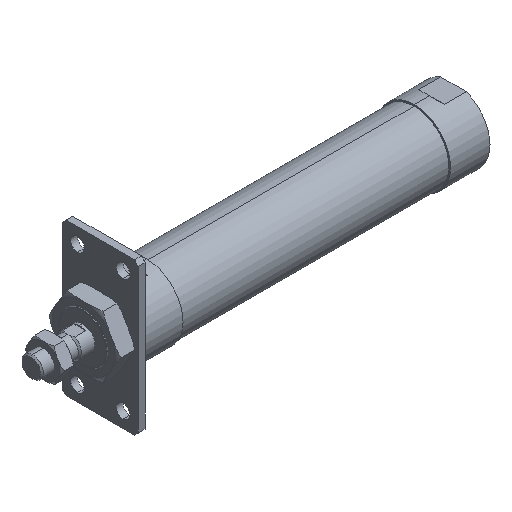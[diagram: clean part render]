
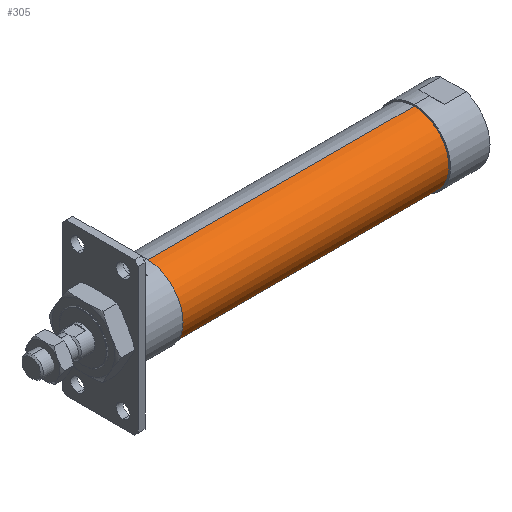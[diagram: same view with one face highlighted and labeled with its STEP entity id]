
A CAD part, isometric view. The second image highlights one B-rep face of the part: STEP entity #305.
In plain terms, the highlighted cylindrical face has radius 23 mm (diameter 46 mm), a partial arc.
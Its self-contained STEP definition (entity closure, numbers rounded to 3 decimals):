
#167 = CARTESIAN_POINT ( 'NONE',  ( 252., 0., 23. ) ) ;
#180 = ORIENTED_EDGE ( 'NONE', *, *, #2808, .F. ) ;
#251 = VERTEX_POINT ( 'NONE', #1982 ) ;
#264 = EDGE_CURVE ( 'NONE', #392, #828, #2992, .T. ) ;
#266 = DIRECTION ( 'NONE',  ( -1., 0., 0. ) ) ;
#282 = AXIS2_PLACEMENT_3D ( 'NONE', #2672, #3306, #3939 ) ;
#305 = ADVANCED_FACE ( 'NONE', ( #883 ), #3149, .T. ) ;
#392 = VERTEX_POINT ( 'NONE', #167 ) ;
#580 = CIRCLE ( 'NONE', #2877, 23. ) ;
#591 = DIRECTION ( 'NONE',  ( 0., 0., 1. ) ) ;
#828 = VERTEX_POINT ( 'NONE', #2040 ) ;
#883 = FACE_OUTER_BOUND ( 'NONE', #3077, .T. ) ;
#949 = ORIENTED_EDGE ( 'NONE', *, *, #3519, .T. ) ;
#1020 = CARTESIAN_POINT ( 'NONE',  ( -1.784, 0., -23. ) ) ;
#1040 = DIRECTION ( 'NONE',  ( -1., 0., 0. ) ) ;
#1324 = DIRECTION ( 'NONE',  ( 0., 0., 1. ) ) ;
#1337 = VECTOR ( 'NONE', #2661, 1000. ) ;
#1554 = LINE ( 'NONE', #1020, #1337 ) ;
#1658 = EDGE_CURVE ( 'NONE', #3319, #828, #580, .T. ) ;
#1763 = AXIS2_PLACEMENT_3D ( 'NONE', #3589, #3868, #1324 ) ;
#1917 = VECTOR ( 'NONE', #1040, 1000. ) ;
#1982 = CARTESIAN_POINT ( 'NONE',  ( 252., 0., -23. ) ) ;
#2040 = CARTESIAN_POINT ( 'NONE',  ( 76., 0., 23. ) ) ;
#2278 = CIRCLE ( 'NONE', #282, 23. ) ;
#2499 = ORIENTED_EDGE ( 'NONE', *, *, #264, .T. ) ;
#2661 = DIRECTION ( 'NONE',  ( -1., 0., 0. ) ) ;
#2672 = CARTESIAN_POINT ( 'NONE',  ( 252., 0., 0. ) ) ;
#2703 = ORIENTED_EDGE ( 'NONE', *, *, #1658, .F. ) ;
#2808 = EDGE_CURVE ( 'NONE', #251, #3319, #1554, .T. ) ;
#2845 = CARTESIAN_POINT ( 'NONE',  ( 76., 0., -23. ) ) ;
#2877 = AXIS2_PLACEMENT_3D ( 'NONE', #3099, #266, #591 ) ;
#2928 = CARTESIAN_POINT ( 'NONE',  ( -1.784, 0., 23. ) ) ;
#2992 = LINE ( 'NONE', #2928, #1917 ) ;
#3077 = EDGE_LOOP ( 'NONE', ( #180, #949, #2499, #2703 ) ) ;
#3099 = CARTESIAN_POINT ( 'NONE',  ( 76., 0., 0. ) ) ;
#3149 = CYLINDRICAL_SURFACE ( 'NONE', #1763, 23. ) ;
#3306 = DIRECTION ( 'NONE',  ( -1., 0., 0. ) ) ;
#3319 = VERTEX_POINT ( 'NONE', #2845 ) ;
#3519 = EDGE_CURVE ( 'NONE', #251, #392, #2278, .T. ) ;
#3589 = CARTESIAN_POINT ( 'NONE',  ( -1.784, 0., 0. ) ) ;
#3868 = DIRECTION ( 'NONE',  ( -1., 0., 0. ) ) ;
#3939 = DIRECTION ( 'NONE',  ( 0., 0., 1. ) ) ;
